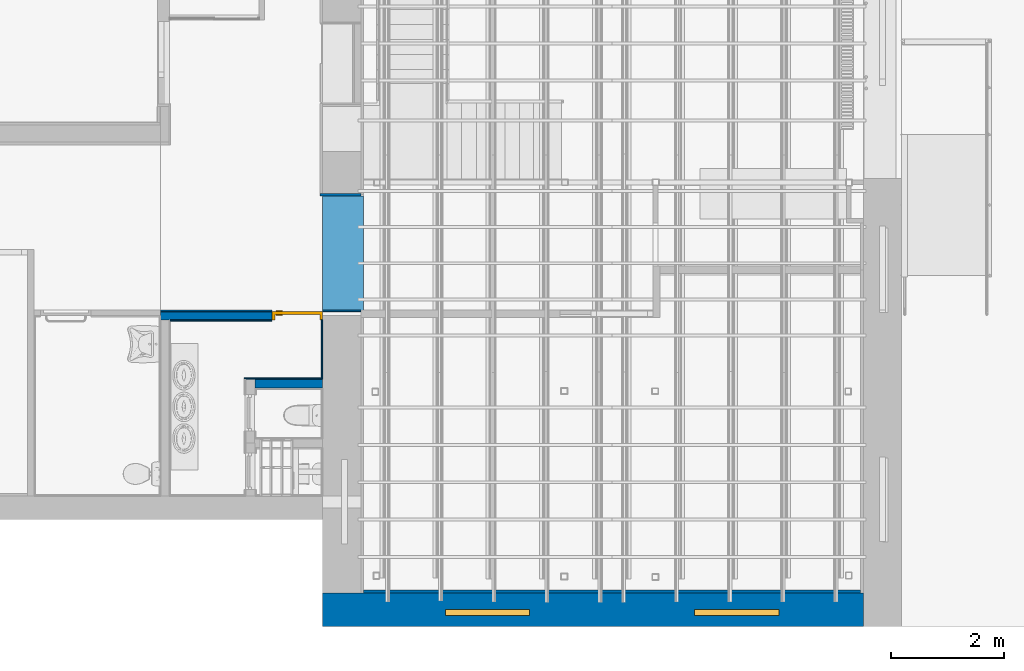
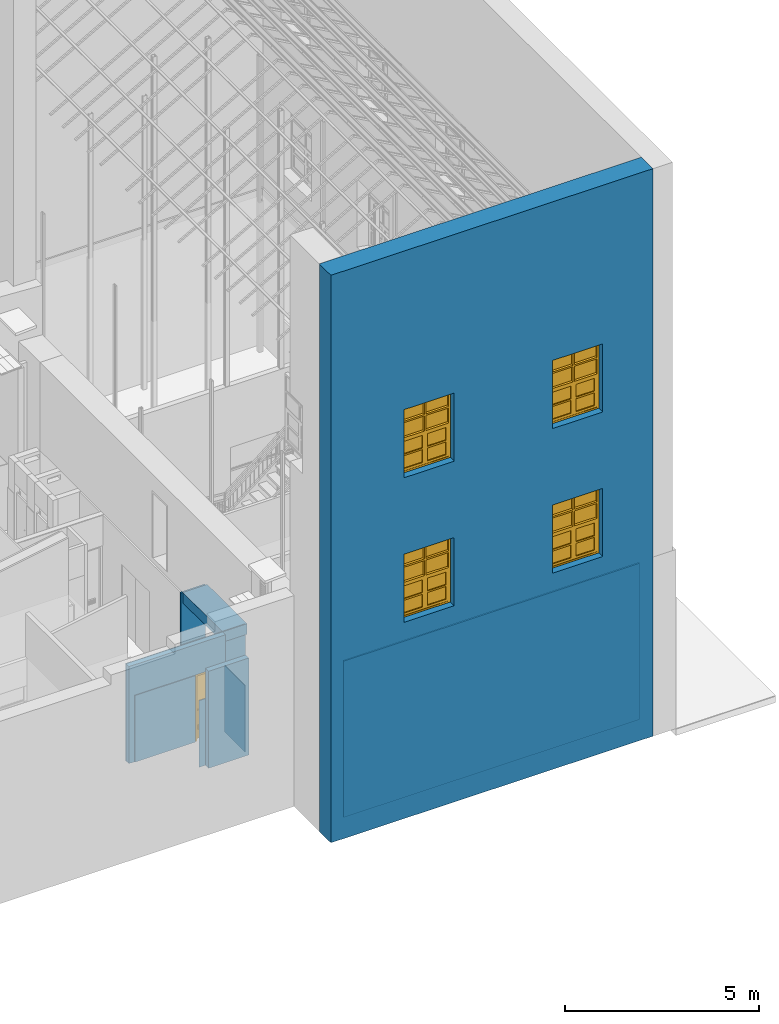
"""IFC2X3 building model written with IfcOpenShell, lengths in metres."""

from ifc_helpers import new_model, entity, si_unit, converted_unit, derived_unit, direction, frame, frame_2d, origin, place, context, subcontext, project, spatial, polyline, rectangle, outline, extrude, clip, bounded_halfspace, faceted_brep, source, transform, mapped, material, material_list, layer, layer_set, layer_usage, type_object, type_shapes, element, fill, save


model = new_model("IFC2X3")

# Units and contexts
model_context = context("Model", 3, precision=1e-05, world=origin(), true_north=direction((6.12303176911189e-17, 1.0)))
body_context = subcontext(model_context, "Body", "Model", "MODEL_VIEW")
ifc_project = project(units=[si_unit("LENGTHUNIT", "METRE"), si_unit("AREAUNIT", "SQUARE_METRE"), si_unit("VOLUMEUNIT", "CUBIC_METRE"), converted_unit("PLANEANGLEUNIT", "DEGREE", entity("IfcRatioMeasure", 0.0174532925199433), si_unit("PLANEANGLEUNIT", "RADIAN"), dimensions=[0, 0, 0, 0, 0, 0, 0]), si_unit("MASSUNIT", "GRAM", prefix="KILO"), derived_unit("MASSDENSITYUNIT", [(si_unit("MASSUNIT", "GRAM", prefix="KILO"), 1), (si_unit("LENGTHUNIT", "METRE"), -3)]), derived_unit("MOMENTOFINERTIAUNIT", [(si_unit("LENGTHUNIT", "METRE"), 4)]), si_unit("TIMEUNIT", "SECOND"), si_unit("FREQUENCYUNIT", "HERTZ"), si_unit("THERMODYNAMICTEMPERATUREUNIT", "DEGREE_CELSIUS"), derived_unit("THERMALTRANSMITTANCEUNIT", [(si_unit("MASSUNIT", "GRAM", prefix="KILO"), 1), (si_unit("THERMODYNAMICTEMPERATUREUNIT", "KELVIN"), -1), (si_unit("TIMEUNIT", "SECOND"), -3)]), derived_unit("VOLUMETRICFLOWRATEUNIT", [(si_unit("LENGTHUNIT", "METRE"), 3), (si_unit("TIMEUNIT", "SECOND"), -1)]), si_unit("ELECTRICCURRENTUNIT", "AMPERE"), si_unit("ELECTRICVOLTAGEUNIT", "VOLT"), si_unit("POWERUNIT", "WATT"), si_unit("FORCEUNIT", "NEWTON", prefix="KILO"), si_unit("ILLUMINANCEUNIT", "LUX"), si_unit("LUMINOUSFLUXUNIT", "LUMEN"), si_unit("LUMINOUSINTENSITYUNIT", "CANDELA"), derived_unit("USERDEFINED", [(si_unit("MASSUNIT", "GRAM", prefix="KILO"), -1), (si_unit("LENGTHUNIT", "METRE"), -2), (si_unit("TIMEUNIT", "SECOND"), 3), (si_unit("LUMINOUSFLUXUNIT", "LUMEN"), 1)]), derived_unit("LINEARVELOCITYUNIT", [(si_unit("LENGTHUNIT", "METRE"), 1), (si_unit("TIMEUNIT", "SECOND"), -1)]), si_unit("PRESSUREUNIT", "PASCAL"), derived_unit("USERDEFINED", [(si_unit("LENGTHUNIT", "METRE"), -2), (si_unit("MASSUNIT", "GRAM", prefix="KILO"), 1), (si_unit("TIMEUNIT", "SECOND"), -2)]), derived_unit("LINEARFORCEUNIT", [(si_unit("MASSUNIT", "GRAM", prefix="KILO"), 1), (si_unit("LENGTHUNIT", "METRE"), 1), (si_unit("TIMEUNIT", "SECOND"), -2), (si_unit("LENGTHUNIT", "METRE"), -1)]), derived_unit("PLANARFORCEUNIT", [(si_unit("MASSUNIT", "GRAM", prefix="KILO"), 1), (si_unit("LENGTHUNIT", "METRE"), 1), (si_unit("TIMEUNIT", "SECOND"), -2), (si_unit("LENGTHUNIT", "METRE"), -2)])], contexts=[model_context])

# Site, building, storey
site_placement = place(None, origin())
site = spatial("IfcSite", under=ifc_project, at=site_placement, Name="Superficie", CompositionType="ELEMENT")
building_placement = place(site_placement, origin())
building = spatial("IfcBuilding", under=site, at=building_placement, Name="Telegestiones", CompositionType="ELEMENT")
storey_1_placement = place(building_placement, origin())
storey_1 = spatial("IfcBuildingStorey", under=building, at=storey_1_placement, Name="Nivel 0_NPT", CompositionType="ELEMENT", Elevation=0.0)

# Wall, opening, door
ifc_material_1 = material(Name="Muro por defecto")
ifc_layer_1 = layer(ifc_material_1, 0.15)
ifc_layer_set_1 = layer_set([ifc_layer_1], Name="Muro básico:ARQ-MU-IN-15-Gen")
ifc_layer_usage_1 = layer_usage(ifc_layer_set_1, "AXIS2", "NEGATIVE", 0.075)
wall_type_1 = type_object("IfcWallType", Name="Muro básico:ARQ-MU-IN-15-Gen", PredefinedType="STANDARD", material=ifc_layer_set_1)
wall_1_placement = place(storey_1_placement, frame((2.47481262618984, -0.881462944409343, 0.0)))
wall_1 = element("IfcWallStandardCase", 1, at=wall_1_placement, inside=storey_1, type_object=wall_type_1, material=ifc_layer_usage_1, Name="Muro básico:ARQ-MU-IN-15-Gen", ObjectType="Muro básico:ARQ-MU-IN-15-Gen", context=body_context, shape_type="SweptSolid", body=[
    extrude(rectangle(XDim=2.87947715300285, YDim=0.15, at=frame_2d((1.43973857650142, -1.38777878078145e-17), x_axis=(-1.0, 0.0))), origin(), (0.0, 0.0, 1.0), 3.06),
])
opening_1_placement = place(wall_1_placement, frame((2.87999999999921, 0.0749999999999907, 0.0)))
opening_1 = element("IfcOpeningElement", 2, at=opening_1_placement, cuts=wall_1, Name="ARQ-PU-INT-90x210-Mad-C3:ARQ-PU-INT-90x210-Mad:1", ObjectType="Opening", context=body_context, shape_type="SweptSolid", body=[
    extrude(rectangle(XDim=2.09999999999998, YDim=0.9, at=frame_2d((1.04999999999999, 0.45), x_axis=(1.0, 0.0))), frame((0.0, 0.0, 0.0), z_axis=(0.0, -1.0, 0.0), x_axis=(0.0, 0.0, 1.0)), (0.0, 0.0, 1.0), 0.15),
])
ifc_material_2 = material(Name="Caoba")
ifc_material_3 = material(Name="Aluminio")
ifc_material_4 = material(Name="<Unnamed>")
ifc_material_list_1 = material_list([ifc_material_2, ifc_material_3, ifc_material_3, ifc_material_3, ifc_material_3, ifc_material_3, ifc_material_3, ifc_material_4, ifc_material_4, ifc_material_2])
ifc_material_list_2 = material_list([ifc_material_2, ifc_material_3, ifc_material_3, ifc_material_3, ifc_material_3, ifc_material_3, ifc_material_3, ifc_material_4, ifc_material_4, ifc_material_2])
door_style = type_object("IfcDoorStyle", Name="ARQ-PU-INT-90x210-Mad-C3:ARQ-PU-INT-90x210-Mad", ConstructionType="NOTDEFINED", OperationType="DOUBLE_SWING_LEFT", ParameterTakesPrecedence=False, Sizeable=False, material=ifc_material_list_2)
shared_shape_1 = source(origin(), body_context, "Body", "SweptSolid", [
    extrude(outline(polyline([(-0.449999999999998, -1.06249999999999), (0.450000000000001, -1.06249999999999), (0.450000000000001, 1.03749999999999), (0.400000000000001, 1.03749999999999), (0.400000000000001, -1.01249999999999), (-0.400000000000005, -1.01249999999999), (-0.400000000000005, 1.03749999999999), (-0.449999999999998, 1.03749999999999), (-0.449999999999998, -1.06249999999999)])), frame((0.450000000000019, 0.3, 1.03749999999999), z_axis=(0.0, -1.0, 0.0), x_axis=(-1.0, 0.0, 0.0)), (0.0, 0.0, 1.0), 0.15),
    extrude(rectangle(XDim=0.00504261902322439, YDim=0.0554154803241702, at=frame_2d((-1.73472347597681e-17, -2.86229373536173e-17), x_axis=(0.0, 1.0))), frame((0.75501001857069, 0.174943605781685, 0.409593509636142), z_axis=(-1.0, 0.0, 0.0), x_axis=(0.0, 0.857492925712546, -0.514495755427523)), (0.0, 0.0, 1.0), 0.610020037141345),
    extrude(rectangle(XDim=0.00504261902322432, YDim=0.0554154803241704, at=frame_2d((3.46944695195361e-18, 1.69135538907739e-17), x_axis=(0.0, 1.0))), frame((0.75501001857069, 0.174943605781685, 0.289593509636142), z_axis=(-1.0, 0.0, 0.0), x_axis=(0.0, 0.857492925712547, -0.514495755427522)), (0.0, 0.0, 1.0), 0.610020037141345),
    extrude(rectangle(XDim=0.00504261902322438, YDim=0.0554154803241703, at=frame_2d((0.0, 0.0), x_axis=(0.0, 1.0))), frame((0.75501001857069, 0.174943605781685, 0.379593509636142), z_axis=(-1.0, 0.0, 0.0), x_axis=(0.0, 0.857492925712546, -0.514495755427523)), (0.0, 0.0, 1.0), 0.610020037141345),
    extrude(rectangle(XDim=0.00504261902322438, YDim=0.0554154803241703, at=frame_2d((3.46944695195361e-18, -1.95156391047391e-18), x_axis=(0.0, 1.0))), frame((0.75501001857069, 0.174943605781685, 0.349593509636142), z_axis=(-1.0, 0.0, 0.0), x_axis=(0.0, 0.857492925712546, -0.514495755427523)), (0.0, 0.0, 1.0), 0.610020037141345),
    extrude(rectangle(XDim=0.00504261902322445, YDim=0.0554154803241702, at=frame_2d((3.46944695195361e-18, -1.95156391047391e-18), x_axis=(0.0, 1.0))), frame((0.75501001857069, 0.174943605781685, 0.319593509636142), z_axis=(-1.0, 0.0, 0.0), x_axis=(0.0, 0.857492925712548, -0.51449575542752)), (0.0, 0.0, 1.0), 0.610020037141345),
    extrude(outline(polyline([(-0.0999999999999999, -0.325010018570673), (0.1, -0.325010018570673), (0.0999999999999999, 0.325010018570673), (-0.1, 0.325010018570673), (-0.0999999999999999, -0.325010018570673)]), holes=[polyline([(-0.0799999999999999, -0.305010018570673), (-0.0800000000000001, 0.305010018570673), (0.0799999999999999, 0.305010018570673), (0.0800000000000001, -0.305010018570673), (-0.0799999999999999, -0.305010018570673)])]), frame((0.450000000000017, 0.2, 0.35), z_axis=(0.0, -1.0, 0.0), x_axis=(0.0, 0.0, -1.0)), (0.0, 0.0, 1.0), 0.05),
    extrude(rectangle(XDim=0.120000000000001, YDim=0.02, at=frame_2d((-1.73472347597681e-17, -8.67361737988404e-18), x_axis=(1.0, 0.0))), frame((0.769677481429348, 0.14, 0.900000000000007)), (0.0, 0.0, 1.0), 0.0200000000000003),
    extrude(rectangle(XDim=0.120000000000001, YDim=0.02, at=frame_2d((1.73472347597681e-17, 0.0), x_axis=(1.0, 0.0))), frame((0.769677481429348, 0.21, 0.900000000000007), z_axis=(0.0, 0.0, 1.0), x_axis=(-1.0, 0.0, 0.0)), (0.0, 0.0, 1.0), 0.0200000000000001),
    extrude(outline(polyline([(-1.02499999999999, -0.400000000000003), (1.02499999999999, -0.400000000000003), (1.02499999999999, 0.400000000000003), (-1.02499999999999, 0.400000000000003), (-1.02499999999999, -0.400000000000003)]), holes=[polyline([(0.57499999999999, -0.325010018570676), (0.57499999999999, 0.32501001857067), (0.77499999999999, 0.32501001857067), (0.77499999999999, -0.325010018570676), (0.57499999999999, -0.325010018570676)])]), frame((0.45000000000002, 0.2, 1.02499999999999), z_axis=(0.0, -1.0, 0.0), x_axis=(0.0, 0.0, -1.0)), (0.0, 0.0, 1.0), 0.05),
])
type_shapes(door_style, [shared_shape_1])
door_placement = place(opening_1_placement, frame((0.0, 0.15, 0.0), z_axis=(0.0, 0.0, 1.0), x_axis=(-1.0, 0.0, 0.0)))
door = element("IfcDoor", 3, at=door_placement, inside=storey_1, type_object=door_style, material=ifc_material_list_1, Name="ARQ-PU-INT-90x210-Mad-C3:ARQ-PU-INT-90x210-Mad", ObjectType="ARQ-PU-INT-90x210-Mad-C3:ARQ-PU-INT-90x210-Mad", OverallHeight=2.09999999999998, OverallWidth=0.9, context=body_context, shape_type="MappedRepresentation", body=[
    mapped(shared_shape_1, transform((0.0, 0.0, 0.0), scale=1.0)),
])
fill(opening_1, door)

# Wall, openings
ifc_material_5 = material(Name="Albañilería expuesta")
ifc_layer_2 = layer(ifc_material_5, 0.12)
ifc_layer_3 = layer(ifc_material_1, 0.48)
ifc_layer_set_2 = layer_set([ifc_layer_2, ifc_layer_3], Name="Muro básico:ARQ-MU-EX-60-Lad")
ifc_layer_usage_2 = layer_usage(ifc_layer_set_2, "AXIS2", "NEGATIVE", 0.3)
wall_type_2 = type_object("IfcWallType", Name="Muro básico:ARQ-MU-EX-60-Lad", PredefinedType="STANDARD", material=ifc_layer_set_2)
wall_2_placement = place(storey_1_placement, frame((14.9648126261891, -6.10636712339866, -0.2), z_axis=(0.0, 0.0, 1.0), x_axis=(-1.0, 0.0, 0.0)))
wall_2 = element("IfcWallStandardCase", 4, at=wall_2_placement, inside=storey_1, type_object=wall_type_2, material=ifc_layer_usage_2, Name="Muro básico:ARQ-MU-EX-60-Lad", ObjectType="Muro básico:ARQ-MU-EX-60-Lad", context=body_context, shape_type="SweptSolid", body=[
    extrude(rectangle(XDim=9.61052284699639, YDim=0.6, at=frame_2d((4.8052614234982, -1.11022302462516e-16), x_axis=(-1.0, 0.0))), origin(), (0.0, 0.0, 1.0), 17.9),
])
opening_2_placement = place(wall_2_placement, frame((7.50999999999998, 0.0900000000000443, 10.75)))
element("IfcOpeningElement", 5, at=opening_2_placement, cuts=wall_2, Name="Muro básico:ARQ-MU-EX-60-Lad", ObjectType="Opening", context=body_context, shape_type="Brep", body=[
    faceted_brep([(-0.0799999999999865, 0.0, 2.15), (-0.0800000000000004, -0.390000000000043, 2.15), (0.0, -0.390000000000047, 2.15), (-0.0799999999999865, 0.0, 0.0), (-0.0800000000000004, -0.390000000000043, 0.0), (0.0, -0.390000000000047, 0.0)], [[[0, 1, 2]], [[1, 0, 3, 4]], [[2, 1, 4, 5]], [[0, 2, 5, 3]], [[3, 5, 4]]]),
    faceted_brep([(-6.00999999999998, 0.0, 0.0), (-6.00999999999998, -0.390000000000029, 0.0), (-6.08999999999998, -0.390000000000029, 0.0), (-6.08999999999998, -0.390000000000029, 2.15), (-6.00999999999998, 0.0, 2.15), (-6.00999999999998, -0.390000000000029, 2.15)], [[[0, 1, 2]], [[3, 4, 0, 2]], [[5, 3, 2, 1]], [[4, 5, 1, 0]], [[4, 3, 5]]]),
    faceted_brep([(-4.51000000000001, -0.390000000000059, 2.15), (-4.50999999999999, 0.0, 2.15), (-4.50999999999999, 0.0, 0.0), (-4.51000000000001, -0.390000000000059, 0.0), (-4.43000000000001, -0.390000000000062, 2.15), (-4.43000000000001, -0.390000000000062, 0.0)], [[[0, 1, 2, 3]], [[4, 0, 3, 5]], [[1, 4, 5, 2]], [[2, 5, 3]], [[1, 0, 4]]]),
    faceted_brep([(-1.65999999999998, -0.390000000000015, 2.15), (-1.57999999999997, 0.0, 2.15), (-1.57999999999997, 0.0, 0.0), (-1.65999999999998, -0.390000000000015, 0.0), (-1.57999999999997, -0.390000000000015, 2.15), (-1.57999999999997, -0.390000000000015, 0.0)], [[[0, 1, 2, 3]], [[4, 0, 3, 5]], [[1, 4, 5, 2]], [[2, 5, 3]], [[1, 0, 4]]]),
])
opening_3_placement = place(wall_2_placement, frame((7.51, 0.0900000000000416, 6.19)))
element("IfcOpeningElement", 6, at=opening_3_placement, cuts=wall_2, Name="Muro básico:ARQ-MU-EX-60-Lad", ObjectType="Opening", context=body_context, shape_type="Brep", body=[
    faceted_brep([(-6.09, -0.39000000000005, 2.15), (-6.01, -0.39000000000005, 2.15), (-6.01, 0.0, 2.15), (-6.09, -0.39000000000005, 0.0), (-6.01, -0.39000000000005, 0.0), (-6.01, 0.0, 0.0)], [[[0, 1, 2]], [[1, 0, 3, 4]], [[2, 1, 4, 5]], [[0, 2, 5, 3]], [[3, 5, 4]]]),
    faceted_brep([(0.0, -0.39000000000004, 0.0), (-0.0800000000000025, -0.39000000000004, 0.0), (-0.0800000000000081, 0.0, 0.0), (-0.0800000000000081, 0.0, 2.15), (0.0, -0.39000000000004, 2.15), (-0.0800000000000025, -0.39000000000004, 2.15)], [[[0, 1, 2]], [[3, 4, 0, 2]], [[5, 3, 2, 1]], [[4, 5, 1, 0]], [[4, 3, 5]]]),
    faceted_brep([(-4.51000000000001, 0.0, 2.15), (-4.43000000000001, -0.39000000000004, 2.15), (-4.43000000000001, -0.39000000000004, 0.0), (-4.51000000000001, 0.0, 0.0), (-4.51000000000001, -0.39000000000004, 2.15), (-4.51000000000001, -0.39000000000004, 0.0)], [[[0, 1, 2, 3]], [[4, 0, 3, 5]], [[1, 4, 5, 2]], [[2, 5, 3]], [[1, 0, 4]]]),
    faceted_brep([(-1.57999999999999, -0.39000000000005, 2.15), (-1.65999999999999, -0.39000000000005, 2.15), (-1.65999999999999, -0.39000000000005, 0.0), (-1.57999999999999, -0.39000000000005, 0.0), (-1.57999999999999, 0.0, 2.15), (-1.57999999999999, 0.0, 0.0)], [[[0, 1, 2, 3]], [[4, 0, 3, 5]], [[1, 4, 5, 2]], [[2, 5, 3]], [[1, 0, 4]]]),
])
opening_4_placement = place(wall_2_placement, frame((5.93, -0.30000000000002, 10.75)))
opening_4 = element("IfcOpeningElement", 7, at=opening_4_placement, cuts=wall_2, Name="ARQ-VE-EX-215x170-Ace:ARQ-VE-EX-215x170-Ace:1", ObjectType="Opening", context=body_context, shape_type="SweptSolid", body=[
    extrude(rectangle(XDim=2.15, YDim=1.5, at=frame_2d((1.075, 0.75), x_axis=(1.0, 0.0))), frame((0.0, 0.0, 0.0), z_axis=(0.0, 1.0, 0.0), x_axis=(0.0, 0.0, 1.0)), (0.0, 0.0, 1.0), 0.6),
])
opening_5_placement = place(wall_2_placement, frame((1.5, -0.300000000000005, 6.19)))
opening_5 = element("IfcOpeningElement", 8, at=opening_5_placement, cuts=wall_2, Name="ARQ-VE-EX-215x170-Ace:ARQ-VE-EX-215x170-Ace:1", ObjectType="Opening", context=body_context, shape_type="SweptSolid", body=[
    extrude(rectangle(XDim=2.15, YDim=1.5, at=frame_2d((1.075, 0.750000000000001), x_axis=(1.0, 0.0))), frame((0.0, 0.0, 0.0), z_axis=(0.0, 1.0, 0.0), x_axis=(0.0, 0.0, 1.0)), (0.0, 0.0, 1.0), 0.6),
])
opening_6_placement = place(wall_2_placement, frame((5.93, -0.30000000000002, 6.19)))
opening_6 = element("IfcOpeningElement", 9, at=opening_6_placement, cuts=wall_2, Name="ARQ-VE-EX-215x170-Ace:ARQ-VE-EX-215x170-Ace:1", ObjectType="Opening", context=body_context, shape_type="SweptSolid", body=[
    extrude(rectangle(XDim=2.15, YDim=1.5, at=frame_2d((1.075, 0.75), x_axis=(1.0, 0.0))), frame((0.0, 0.0, 0.0), z_axis=(0.0, 1.0, 0.0), x_axis=(0.0, 0.0, 1.0)), (0.0, 0.0, 1.0), 0.6),
])
opening_7_placement = place(wall_2_placement, frame((1.5, -0.300000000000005, 10.75)))
opening_7 = element("IfcOpeningElement", 10, at=opening_7_placement, cuts=wall_2, Name="ARQ-VE-EX-215x170-Ace:ARQ-VE-EX-215x170-Ace:1", ObjectType="Opening", context=body_context, shape_type="SweptSolid", body=[
    extrude(rectangle(XDim=2.15, YDim=1.5, at=frame_2d((1.075, 0.750000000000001), x_axis=(1.0, 0.0))), frame((0.0, 0.0, 0.0), z_axis=(0.0, 1.0, 0.0), x_axis=(0.0, 0.0, 1.0)), (0.0, 0.0, 1.0), 0.6),
])

# Storey
storey_2_placement = place(building_placement, frame((0.0, 0.0, 4.94)))
storey_2 = spatial("IfcBuildingStorey", under=building, at=storey_2_placement, Name="Nivel 1_NPT", CompositionType="ELEMENT", Elevation=4.94)

# Window
ifc_material_6 = material(Name="Nogal")
ifc_material_7 = material(Name="Vidrio")
ifc_material_list_3 = material_list([ifc_material_6, ifc_material_7, ifc_material_7, ifc_material_7, ifc_material_7, ifc_material_6, ifc_material_7, ifc_material_7, ifc_material_7, ifc_material_7, ifc_material_6])
ifc_material_list_4 = material_list([ifc_material_6, ifc_material_7, ifc_material_7, ifc_material_7, ifc_material_7, ifc_material_6, ifc_material_7, ifc_material_7, ifc_material_7, ifc_material_7, ifc_material_6])
window_style = type_object("IfcWindowStyle", Name="ARQ-VE-EX-215x170-Ace:ARQ-VE-EX-215x170-Ace", ConstructionType="NOTDEFINED", OperationType="NOTDEFINED", ParameterTakesPrecedence=False, Sizeable=False, material=ifc_material_list_4)
shared_shape_2 = source(origin(), body_context, "Body", "SweptSolid", [
    extrude(outline(polyline([(-0.75, -1.075), (0.75, -1.075), (0.75, 1.075), (-0.75, 1.075), (-0.75, -1.075)]), holes=[polyline([(0.7, -0.500000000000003), (0.0249999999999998, -0.500000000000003), (0.0249999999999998, -0.0249999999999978), (0.7, -0.0250000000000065), (0.7, -0.500000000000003)]), polyline([(0.0249999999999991, -1.025), (0.0249999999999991, -0.549999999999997), (0.7, -0.550000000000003), (0.7, -1.025), (0.0249999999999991, -1.025)]), polyline([(-0.7, -0.550000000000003), (-0.0250000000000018, -0.550000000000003), (-0.0250000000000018, -1.025), (-0.7, -1.025), (-0.7, -0.550000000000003)]), polyline([(0.7, 0.0250000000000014), (-0.7, 0.0250000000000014), (-0.7, 1.025), (0.7, 1.025), (0.7, 0.0250000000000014)]), polyline([(-0.0250000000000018, -0.0250000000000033), (-0.0250000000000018, -0.499999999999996), (-0.7, -0.500000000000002), (-0.7, -0.0250000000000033), (-0.0250000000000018, -0.0250000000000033)])]), frame((0.75, 0.3, 1.075), z_axis=(0.0, 1.0, 0.0), x_axis=(1.0, 0.0, 0.0)), (0.0, 0.0, 1.0), 0.1),
    extrude(rectangle(XDim=0.01, YDim=0.675000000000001, at=frame_2d((-2.16840434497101e-18, -2.77555756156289e-17), x_axis=(1.0, 0.0))), frame((1.1125, 0.325, 1.1), z_axis=(0.0, 0.0, 1.0), x_axis=(0.0, 1.0, 0.0)), (0.0, 0.0, 1.0), 0.475000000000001),
    extrude(rectangle(XDim=0.01, YDim=0.674999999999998, at=frame_2d((2.16840434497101e-18, 0.0), x_axis=(1.0, 0.0))), frame((0.387499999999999, 0.325, 1.625), z_axis=(0.0, 0.0, 1.0), x_axis=(0.0, 1.0, 0.0)), (0.0, 0.0, 1.0), 0.474999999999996),
    extrude(rectangle(XDim=0.01, YDim=0.675000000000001, at=frame_2d((-2.16840434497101e-18, -2.77555756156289e-17), x_axis=(1.0, 0.0))), frame((1.1125, 0.325, 1.625), z_axis=(0.0, 0.0, 1.0), x_axis=(0.0, 1.0, 0.0)), (0.0, 0.0, 1.0), 0.475),
    extrude(rectangle(XDim=0.01, YDim=0.674999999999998, at=frame_2d((1.73472347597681e-18, 0.0), x_axis=(1.0, 0.0))), frame((0.387499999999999, 0.325, 1.1), z_axis=(0.0, 0.0, 1.0), x_axis=(0.0, 1.0, 0.0)), (0.0, 0.0, 1.0), 0.474999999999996),
    extrude(outline(polyline([(-0.499999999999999, -0.349999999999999), (0.500000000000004, -0.349999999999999), (0.5, 0.350000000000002), (-0.500000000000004, 0.349999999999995), (-0.499999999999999, -0.349999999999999)]), holes=[polyline([(0.430000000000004, -0.279999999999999), (0.0250000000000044, -0.279999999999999), (0.025000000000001, 0.279999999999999), (0.43, 0.280000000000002), (0.430000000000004, -0.279999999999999)]), polyline([(-0.024999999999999, 0.280000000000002), (-0.0249999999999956, -0.279999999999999), (-0.429999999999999, -0.279999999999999), (-0.430000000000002, 0.279999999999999), (-0.024999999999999, 0.280000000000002)])]), frame((0.399999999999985, 0.31, 0.549999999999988), z_axis=(0.0, 1.0, 0.0), x_axis=(0.0, 0.0, -1.0)), (0.0, 0.0, 1.0), 0.08),
    extrude(rectangle(XDim=0.02, YDim=0.56, at=frame_2d((4.33680868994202e-18, 0.0), x_axis=(1.0, 0.0))), frame((1.10000000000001, 0.35, 0.574999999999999), z_axis=(0.0, 0.0, 1.0), x_axis=(0.0, 1.0, 0.0)), (0.0, 0.0, 1.0), 0.405000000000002),
    extrude(rectangle(XDim=0.02, YDim=0.56, at=frame_2d((4.33680868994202e-18, 2.77555756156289e-17), x_axis=(1.0, 0.0))), frame((0.4, 0.35, 0.574999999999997), z_axis=(0.0, 0.0, 1.0), x_axis=(0.0, 1.0, 0.0)), (0.0, 0.0, 1.0), 0.405000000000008),
    extrude(rectangle(XDim=0.02, YDim=0.56, at=frame_2d((4.33680868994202e-18, 2.77555756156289e-17), x_axis=(1.0, 0.0))), frame((0.4, 0.35, 0.12), z_axis=(0.0, 0.0, 1.0), x_axis=(0.0, 1.0, 0.0)), (0.0, 0.0, 1.0), 0.404999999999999),
    extrude(rectangle(XDim=0.02, YDim=0.56, at=frame_2d((4.33680868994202e-18, 0.0), x_axis=(1.0, 0.0))), frame((1.10000000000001, 0.35, 0.12), z_axis=(0.0, 0.0, 1.0), x_axis=(0.0, 1.0, 0.0)), (0.0, 0.0, 1.0), 0.404999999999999),
    extrude(outline(polyline([(-0.350000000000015, -0.500000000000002), (0.350000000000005, -0.500000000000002), (0.350000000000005, 0.500000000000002), (-0.349999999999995, 0.500000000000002), (-0.350000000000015, -0.500000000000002)]), holes=[polyline([(-0.279999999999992, 0.430000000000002), (0.280000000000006, 0.430000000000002), (0.280000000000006, 0.0250000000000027), (-0.279999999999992, 0.0250000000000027), (-0.279999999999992, 0.430000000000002)]), polyline([(0.280000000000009, -0.0249999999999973), (0.280000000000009, -0.430000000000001), (-0.279999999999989, -0.429999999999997), (-0.279999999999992, -0.0249999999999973), (0.280000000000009, -0.0249999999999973)])]), frame((1.1, 0.31, 0.550000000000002), z_axis=(0.0, 1.0, 0.0), x_axis=(1.0, 0.0, 0.0)), (0.0, 0.0, 1.0), 0.08),
])
type_shapes(window_style, [shared_shape_2])
window_1_placement = place(opening_5_placement, origin())
window_1 = element("IfcWindow", 11, at=window_1_placement, inside=storey_2, type_object=window_style, material=ifc_material_list_3, Name="ARQ-VE-EX-215x170-Ace:ARQ-VE-EX-215x170-Ace", ObjectType="ARQ-VE-EX-215x170-Ace:ARQ-VE-EX-215x170-Ace", OverallHeight=2.15, OverallWidth=1.5, context=body_context, shape_type="MappedRepresentation", body=[
    mapped(shared_shape_2, transform((0.0, 0.0, 0.0), scale=1.0)),
])

fill(opening_5, window_1)

ifc_material_list_5 = material_list([ifc_material_6, ifc_material_7])
window_2_placement = place(opening_6_placement, origin())
window_2 = element("IfcWindow", 12, at=window_2_placement, inside=storey_2, type_object=window_style, material=ifc_material_list_5, Name="ARQ-VE-EX-215x170-Ace:ARQ-VE-EX-215x170-Ace", ObjectType="ARQ-VE-EX-215x170-Ace:ARQ-VE-EX-215x170-Ace", OverallHeight=2.15, OverallWidth=1.5, context=body_context, shape_type="MappedRepresentation", body=[
    mapped(shared_shape_2, transform((0.0, 0.0, 0.0), scale=1.0)),
])

fill(opening_6, window_2)

ifc_material_list_6 = material_list([ifc_material_6, ifc_material_7])
window_3_placement = place(opening_7_placement, origin())
window_3 = element("IfcWindow", 13, at=window_3_placement, inside=storey_2, type_object=window_style, material=ifc_material_list_6, Name="ARQ-VE-EX-215x170-Ace:ARQ-VE-EX-215x170-Ace", ObjectType="ARQ-VE-EX-215x170-Ace:ARQ-VE-EX-215x170-Ace", OverallHeight=2.15, OverallWidth=1.5, context=body_context, shape_type="MappedRepresentation", body=[
    mapped(shared_shape_2, transform((0.0, 0.0, 0.0), scale=1.0)),
])

fill(opening_7, window_3)

ifc_material_list_7 = material_list([ifc_material_6, ifc_material_7])
window_4_placement = place(opening_4_placement, origin())
window_4 = element("IfcWindow", 14, at=window_4_placement, inside=storey_2, type_object=window_style, material=ifc_material_list_7, Name="ARQ-VE-EX-215x170-Ace:ARQ-VE-EX-215x170-Ace", ObjectType="ARQ-VE-EX-215x170-Ace:ARQ-VE-EX-215x170-Ace", OverallHeight=2.15, OverallWidth=1.5, context=body_context, shape_type="MappedRepresentation", body=[
    mapped(shared_shape_2, transform((0.0, 0.0, 0.0), scale=1.0)),
])

fill(opening_4, window_4)

# Walls
ifc_layer_4 = layer(ifc_material_1, 0.16)
ifc_layer_set_3 = layer_set([ifc_layer_4], Name="Muro básico:ARQ-MU-IN-16-Gen")
ifc_layer_usage_3 = layer_usage(ifc_layer_set_3, "AXIS2", "NEGATIVE", 0.08)
wall_type_3 = type_object("IfcWallType", Name="Muro básico:ARQ-MU-IN-16-Gen", PredefinedType="STANDARD", material=ifc_layer_set_3)
wall_3_placement = place(storey_1_placement, frame((5.35428977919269, -2.08639277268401, 0.0), z_axis=(0.0, 0.0, 1.0), x_axis=(-1.0, 0.0, 0.0)))
element("IfcWallStandardCase", 15, at=wall_3_placement, inside=storey_1, type_object=wall_type_3, material=ifc_layer_usage_3, Name="Muro básico:ARQ-MU-IN-16-Gen", ObjectType="Muro básico:ARQ-MU-IN-16-Gen", context=body_context, shape_type="SweptSolid", body=[
    extrude(rectangle(XDim=1.19947715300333, YDim=0.16, at=frame_2d((0.599738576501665, 0.0), x_axis=(-1.0, 0.0))), origin(), (0.0, 0.0, 1.0), 3.06),
])
wall_type_4 = type_object("IfcWallType", Name="ARQ-MU-IN-33x33-Gen:ARQ-MU-IN-33x33-Gen", PredefinedType="NOTDEFINED", material=ifc_material_1)
wall_4_placement = place(storey_1_placement, frame((5.35428977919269, -0.80716294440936, 2.73), z_axis=(0.0, 0.0, 1.0), x_axis=(0.0, 1.0, 0.0)))
element("IfcWall", 16, at=wall_4_placement, inside=storey_1, type_object=wall_type_4, material=ifc_material_1, Name="ARQ-MU-IN-33x33-Gen:ARQ-MU-IN-33x33-Gen", ObjectType="ARQ-MU-IN-33x33-Gen:ARQ-MU-IN-33x33-Gen", context=body_context, shape_type="SweptSolid", body=[
    extrude(rectangle(XDim=2.0514701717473, YDim=0.73, at=frame_2d((-1.11022302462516e-16, 0.0), x_axis=(1.0, 0.0))), frame((1.02573508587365, -0.365000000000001, 0.0)), (0.0, 0.0, 1.0), 0.33),
])
ifc_material_8 = material(Name="Placa yeso entera")
ifc_layer_5 = layer(ifc_material_8, 0.012)
ifc_material_9 = material(Name="Estructura de Hierro Galvanizado")
ifc_layer_6 = layer(ifc_material_9, 0.038)
ifc_layer_set_4 = layer_set([ifc_layer_5, ifc_layer_6], Name="Muro básico:ARQ-RE-IN-5-Ye-M2")
ifc_layer_usage_4 = layer_usage(ifc_layer_set_4, "AXIS2", "NEGATIVE", 0.025)
wall_type_5 = type_object("IfcWallType", Name="Muro básico:ARQ-RE-IN-5-Ye-M2", PredefinedType="STANDARD", material=ifc_layer_set_4)
wall_5_placement = place(storey_1_placement, frame((6.08428977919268, -5.78136712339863, -0.0199999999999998)))
element("IfcWallStandardCase", 17, at=wall_5_placement, inside=storey_1, type_object=wall_type_5, material=ifc_layer_usage_4, Name="Muro básico:ARQ-RE-IN-5-Ye-M2", ObjectType="Muro básico:ARQ-RE-IN-5-Ye-M2", context=body_context, shape_type="Clipping", body=[
    clip(clip(extrude(rectangle(XDim=8.83052284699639, YDim=0.0499999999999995, at=frame_2d((4.41526142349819, -1.6306400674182e-16), x_axis=(-1.0, 0.0))), origin(), (0.0, 0.0, 1.0), 4.93), bounded_halfspace(frame((0.0, -0.0249999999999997, 0.0), z_axis=(1.0, 0.0, 0.0), x_axis=(0.0, 1.0, 0.0)), True, frame((0.0, -0.0249999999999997, 0.0), z_axis=(1.0, 0.0, 0.0), x_axis=(0.0, 1.0, 0.0)), polyline([(0.0, 0.0), (0.0499999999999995, 0.0), (0.0499999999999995, 4.93), (0.0, 4.93), (0.0, 0.0)]))), bounded_halfspace(frame((8.83052284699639, -0.0249999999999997, 4.93), z_axis=(-1.0, 0.0, 0.0), x_axis=(0.0, -1.0, 0.0)), True, frame((8.83052284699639, -0.0249999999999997, 4.93), z_axis=(-1.0, 0.0, 0.0), x_axis=(0.0, -1.0, 0.0)), polyline([(0.0, 0.0), (-0.0499999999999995, 0.0), (-0.0499999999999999, -4.93), (0.0, -4.93), (0.0, 0.0)]))),
])
ifc_layer_usage_5 = layer_usage(ifc_layer_set_4, "AXIS2", "POSITIVE", -0.025)
wall_6_placement = place(storey_1_placement, frame((5.30428977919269, 1.26860722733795, -0.0200000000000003)))
element("IfcWallStandardCase", 18, at=wall_6_placement, inside=storey_1, type_object=wall_type_5, material=ifc_layer_usage_5, Name="Muro básico:ARQ-RE-IN-5-Ye-M2", ObjectType="Muro básico:ARQ-RE-IN-5-Ye-M2", context=body_context, shape_type="SweptSolid", body=[
    extrude(rectangle(XDim=0.73, YDim=0.05, at=frame_2d((0.365, -5.55111512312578e-17), x_axis=(-1.0, 0.0))), origin(), (0.0, 0.0, 1.0), 3.08),
])

# Wall, openings
ifc_layer_7 = layer(ifc_material_8, 0.012)
ifc_layer_8 = layer(ifc_material_9, 0.013)
ifc_layer_set_5 = layer_set([ifc_layer_7, ifc_layer_8], Name="Muro básico:ARQ-RE-IN-2-Ye-M4")
ifc_layer_usage_6 = layer_usage(ifc_layer_set_5, "AXIS2", "NEGATIVE", 0.0125)
wall_type_6 = type_object("IfcWallType", Name="Muro básico:ARQ-RE-IN-2-Ye-M4", PredefinedType="STANDARD", material=ifc_layer_set_5)
wall_7_placement = place(storey_1_placement, frame((2.47481262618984, -0.793962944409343, -0.0199999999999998)))
wall_7 = element("IfcWallStandardCase", 19, at=wall_7_placement, inside=storey_1, type_object=wall_type_6, material=ifc_layer_usage_6, Name="Muro básico:ARQ-RE-IN-2-Ye-M4", ObjectType="Muro básico:ARQ-RE-IN-2-Ye-M4", context=body_context, shape_type="SweptSolid", body=[
    extrude(rectangle(XDim=3.55947715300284, YDim=0.025, at=frame_2d((1.77973857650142, -1.47451495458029e-17), x_axis=(-1.0, 0.0))), origin(), (0.0, 0.0, 1.0), 3.08),
])
opening_8_placement = place(wall_7_placement, origin())
element("IfcOpeningElement", 20, at=opening_8_placement, cuts=wall_7, Name="Muro básico:ARQ-RE-IN-2-Ye-M4", ObjectType="Opening", context=body_context, shape_type="SweptSolid", body=[
    extrude(rectangle(XDim=2.09999999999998, YDim=0.9, at=frame_2d((0.0, -5.27355936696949e-16), x_axis=(1.0, 0.0))), frame((2.42999999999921, -1.6865, 1.06999999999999), z_axis=(0.0, 1.0, 0.0), x_axis=(0.0, 0.0, 1.0)), (0.0, 0.0, 1.0), 3.048),
])
opening_9_placement = place(wall_7_placement, origin())
element("IfcOpeningElement", 21, at=opening_9_placement, cuts=wall_7, Name="Muro básico:ARQ-RE-IN-2-Ye-M4", ObjectType="Opening", context=body_context, shape_type="SweptSolid", body=[
    extrude(rectangle(XDim=2.11999999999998, YDim=0.9, at=frame_2d((-2.77555756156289e-16, -1.11022302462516e-16), x_axis=(0.0, 1.0))), frame((2.42999999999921, 0.0125, 1.05999999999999), z_axis=(0.0, -1.0, 0.0), x_axis=(1.0, 0.0, 0.0)), (0.0, 0.0, 1.0), 0.025),
])

# Wall, opening
ifc_material_10 = material(Name="Hormigón, Moldeado in situ, gris")
ifc_layer_9 = layer(ifc_material_10, 0.01)
ifc_material_11 = material(Name="Ceramica - Ferrum - Blanco")
ifc_layer_10 = layer(ifc_material_11, 0.01)
ifc_layer_set_6 = layer_set([ifc_layer_9, ifc_layer_10], Name="Muro básico:ARQ-RE-IN-2-Cer")
ifc_layer_usage_7 = layer_usage(ifc_layer_set_6, "AXIS2", "POSITIVE", -0.01)
wall_type_7 = type_object("IfcWallType", Name="Muro básico:ARQ-RE-IN-2-Cer", PredefinedType="STANDARD", material=ifc_layer_set_6)
wall_8_placement = place(storey_1_placement, frame((5.34428977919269, -2.00639277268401, 0.0), z_axis=(0.0, 0.0, 1.0), x_axis=(0.0, 1.0, 0.0)))
wall_8 = element("IfcWallStandardCase", 22, at=wall_8_placement, inside=storey_1, type_object=wall_type_7, material=ifc_layer_usage_7, Name="Muro básico:ARQ-RE-IN-2-Cer", ObjectType="Muro básico:ARQ-RE-IN-2-Cer", context=body_context, shape_type="SweptSolid", body=[
    extrude(rectangle(XDim=1.04992982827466, YDim=0.0199999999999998, at=frame_2d((0.524964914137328, 2.25514051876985e-17), x_axis=(-1.0, 0.0))), origin(), (0.0, 0.0, 1.0), 2.1),
])
opening_10_placement = place(wall_8_placement, origin())
element("IfcOpeningElement", 23, at=opening_10_placement, cuts=wall_8, Name="Muro básico:ARQ-RE-IN-2-Cer", ObjectType="Opening", context=body_context, shape_type="SweptSolid", body=[
    extrude(rectangle(XDim=2.09999999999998, YDim=0.15, at=frame_2d((0.0, 0.0), x_axis=(0.0, 1.0))), frame((1.12492982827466, -0.0105228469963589, 1.04999999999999), z_axis=(0.0, 1.0, 0.0), x_axis=(-1.0, 0.0, 0.0)), (0.0, 0.0, 1.0), 0.9),
])

# Walls
ifc_layer_usage_8 = layer_usage(ifc_layer_set_6, "AXIS2", "NEGATIVE", 0.01)
wall_9_placement = place(storey_1_placement, frame((5.33428977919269, -1.99639277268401, 0.0), z_axis=(0.0, 0.0, 1.0), x_axis=(-1.0, 0.0, 0.0)))
element("IfcWallStandardCase", 24, at=wall_9_placement, inside=storey_1, type_object=wall_type_7, material=ifc_layer_usage_8, Name="Muro básico:ARQ-RE-IN-2-Cer", ObjectType="Muro básico:ARQ-RE-IN-2-Cer", context=body_context, shape_type="SweptSolid", body=[
    extrude(rectangle(XDim=1.36947715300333, YDim=0.0199999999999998, at=frame_2d((0.684738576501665, 0.0), x_axis=(-1.0, 0.0))), origin(), (0.0, 0.0, 1.0), 2.1),
])
ifc_layer_usage_9 = layer_usage(ifc_layer_set_6, "AXIS2", "NEGATIVE", 0.01)
wall_10_placement = place(storey_1_placement, frame((2.64481262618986, -0.966462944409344, 0.0)))
element("IfcWallStandardCase", 25, at=wall_10_placement, inside=storey_1, type_object=wall_type_7, material=ifc_layer_usage_9, Name="Muro básico:ARQ-RE-IN-2-Cer", ObjectType="Muro básico:ARQ-RE-IN-2-Cer", context=body_context, shape_type="SweptSolid", body=[
    extrude(rectangle(XDim=1.80999999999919, YDim=0.0200000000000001, at=frame_2d((0.904999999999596, -3.29597460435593e-17), x_axis=(-1.0, 0.0))), origin(), (0.0, 0.0, 1.0), 2.1),
])

save(model, "model.ifc")
